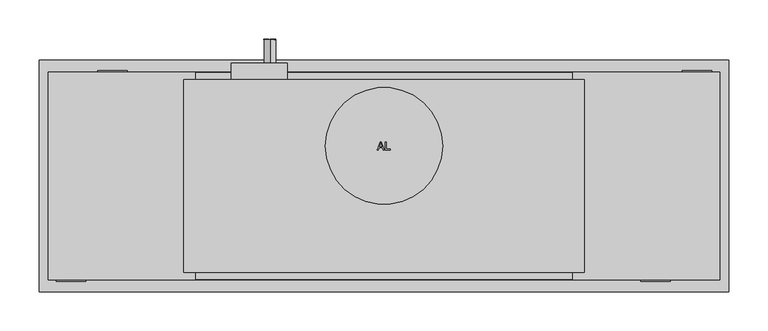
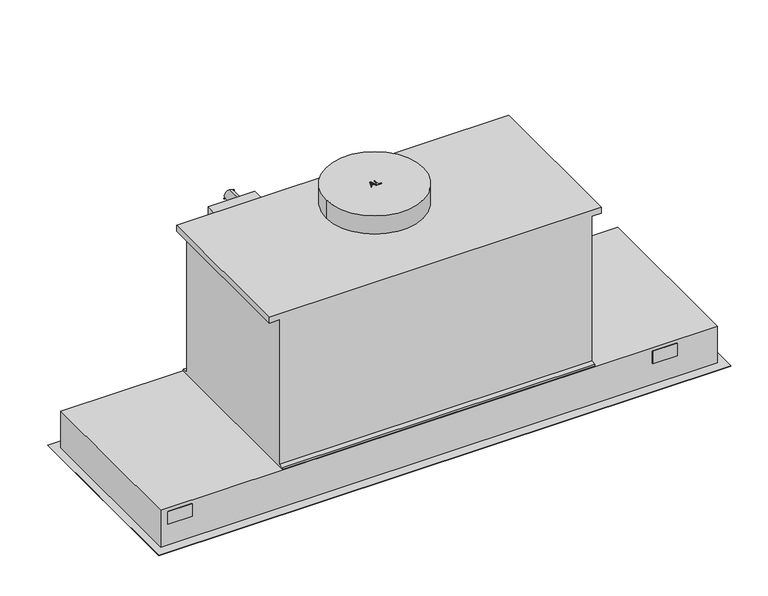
"""IFC4 building model written with IfcOpenShell, lengths in millimetres: proxy geometry, 10743660_USA_DA2390 : 28239055_USA_10743660_DA2390."""

from ifc_helpers import new_model, si_unit, point, frame, frame_2d, origin, place, context, project, spatial, polyline, circle_curve, trimmed, segment, composite_curve, outline, extrude, faceted_brep, source, transform, mapped, element, save
from ifc_brep_helpers import plane_surface, revolved_surface, advanced_brep


def specialty_equipment_3949a3b0(model_context):
    return source(origin(), model_context, "Body", "SolidModel", [
        extrude(outline(polyline([(9.0, -42.5), (332.5, -42.5), (332.5, -254.5), (9.0, -254.5), (9.0, -42.5)])), frame((0.0, 0.0, 2.0), z_axis=(0.0, 0.0, 1.0), x_axis=(1.0, 0.0, 0.0)), (0.0, 0.0, 1.0), 6.0),
        extrude(outline(polyline([(0.0, -33.5), (341.5, -33.5), (341.5, -263.5), (0.0, -263.5), (0.0, -33.5)]), holes=[polyline([(9.0, -42.5), (9.0, -254.5), (332.5, -254.5), (332.5, -42.5), (9.0, -42.5)])]), frame((0.0, 0.0, 0.5), z_axis=(0.0, 0.0, 1.0), x_axis=(1.0, 0.0, 0.0)), (0.0, 0.0, 1.0), 9.0),
        extrude(outline(polyline([(-9.0, -42.5), (-9.0, -254.5), (-332.5, -254.5), (-332.5, -42.5), (-9.0, -42.5)])), frame((0.0, 0.0, 2.0), z_axis=(0.0, 0.0, 1.0), x_axis=(1.0, 0.0, 0.0)), (0.0, 0.0, 1.0), 6.0),
        extrude(outline(polyline([(0.0, -33.5), (0.0, -263.5), (-341.5, -263.5), (-341.5, -33.5), (0.0, -33.5)]), holes=[polyline([(-9.0, -42.5), (-332.5, -42.5), (-332.5, -254.5), (-9.0, -254.5), (-9.0, -42.5)])]), frame((0.0, 0.0, 0.5), z_axis=(0.0, 0.0, 1.0), x_axis=(1.0, 0.0, 0.0)), (0.0, 0.0, 1.0), 9.0),
        extrude(outline(polyline([(154.25, -211.5), (187.25, -211.5), (187.25, -254.5), (154.25, -254.5), (154.25, -211.5)]), holes=[polyline([(160.75, -218.0), (160.75, -227.0), (180.5214328, -227.0), (180.5214328, -218.0), (160.75, -218.0)])]), frame((0.0, 0.0, 0.5), z_axis=(0.0, 0.0, 1.0), x_axis=(1.0, 0.0, 0.0)), (0.0, 0.0, 1.0), 1.5),
        extrude(outline(polyline([(-154.25, -211.5), (-154.25, -254.5), (-187.25, -254.5), (-187.25, -211.5), (-154.25, -211.5)]), holes=[polyline([(-160.75, -218.0), (-180.75, -218.0), (-180.75, -227.0), (-160.75, -227.0), (-160.75, -218.0)])]), frame((0.0, 0.0, 0.5), z_axis=(0.0, 0.0, 1.0), x_axis=(1.0, 0.0, 0.0)), (0.0, 0.0, 1.0), 1.5),
        extrude(outline(composite_curve([segment(trimmed(circle_curve(frame_2d((0.0, -110.0)), 75.0), [point((75.0, -110.0))], [point((-75.0, -110.0))], False, "CARTESIAN"), True, "CONTINUOUS"), segment(trimmed(circle_curve(frame_2d((0.0, -110.0)), 75.0), [point((-75.0, -110.0))], [point((75.0, -110.0))], False, "CARTESIAN"), True, "CONTINUOUS")], self_intersect=False)), frame((0.0, 0.0, 309.0), z_axis=(0.0, 0.0, 1.0), x_axis=(1.0, 0.0, 0.0)), (0.0, 0.0, 1.0), 30.0),
        faceted_brep([(430.0, -15.0, 60.0), (-430.0, -15.0, 60.0), (-430.0, -282.0, 60.0), (430.0, -282.0, 60.0), (430.0, -15.0, 0.0), (430.0, -282.0, 0.0), (-430.0, -282.0, 0.0), (-430.0, -15.0, 0.0), (340.0, -33.0, 0.0), (-340.0, -33.0, 0.0), (-340.0, -264.0, 0.0), (340.0, -264.0, 0.0), (340.0, -33.0, 10.0), (340.0, -264.0, 10.0), (-340.0, -264.0, 10.0), (-340.0, -33.0, 10.0)], [[[0, 1, 2, 3]], [[4, 5, 6, 7], [8, 9, 10, 11]], [[1, 0, 4, 7]], [[2, 1, 7, 6]], [[3, 2, 6, 5]], [[0, 3, 5, 4]], [[12, 13, 14, 15]], [[12, 15, 9, 8]], [[15, 14, 10, 9]], [[14, 13, 11, 10]], [[13, 12, 8, 11]]]),
        faceted_brep([(442.0, 0.0, 0.0), (-442.0, 0.0, 0.0), (-442.0, -297.0, 0.0), (442.0, -297.0, 0.0), (-340.0, -33.0, 0.0), (340.0, -33.0, 0.0), (340.0, -264.0, 0.0), (-340.0, -264.0, 0.0), (-437.669873, -292.669873, -3.0), (-437.669873, -4.330127, -3.0), (437.669873, -4.330127, -3.0), (437.669873, -292.669873, -3.0), (340.0, -33.0, -3.0), (-340.0, -33.0, -3.0), (-340.0, -264.0, -3.0), (340.0, -264.0, -3.0), (442.0, 0.0, -0.5), (-442.0, 0.0, -0.5), (-442.0, -297.0, -0.5), (442.0, -297.0, -0.5)], [[[0, 1, 2, 3], [4, 5, 6, 7]], [[8, 9, 10, 11], [12, 13, 14, 15]], [[1, 0, 16, 17]], [[2, 1, 17, 18]], [[3, 2, 18, 19]], [[0, 3, 19, 16]], [[18, 17, 9, 8]], [[16, 19, 11, 10]], [[8, 11, 19, 18]], [[10, 9, 17, 16]], [[12, 5, 4, 13]], [[13, 4, 7, 14]], [[14, 7, 6, 15]], [[5, 12, 15, 6]]]),
        extrude(outline(polyline([(-8.547125, -115.0), (-4.5372113, -104.954369), (-3.4679009, -104.954369), (0.5420128, -115.0), (-0.7848149, -115.0), (-1.9350593, -111.8607403), (-6.0725055, -111.8607403), (-7.2202973, -115.0), (-8.547125, -115.0)]), holes=[polyline([(-5.6114267, -110.6050364), (-2.3936855, -110.6050364), (-3.2986752, -108.135322), (-4.0025561, -106.2100729), (-4.6279555, -107.9194979), (-5.6114267, -110.6050364)])]), frame((0.0, 0.0, 339.0), z_axis=(0.0, 0.0, 1.0), x_axis=(1.0, 0.0, 0.0)), (0.0, 0.0, 1.0), 1.0),
        extrude(outline(polyline([(1.8835558, -115.0), (1.8835558, -104.954369), (3.1392597, -104.954369), (3.1392597, -113.7442961), (8.1620752, -113.7442961), (8.1620752, -115.0), (1.8835558, -115.0)])), frame((0.0, 0.0, 339.0), z_axis=(0.0, 0.0, 1.0), x_axis=(1.0, 0.0, 0.0)), (0.0, 0.0, 1.0), 1.0),
        extrude(outline(polyline([(285.0, -138.6227397), (295.045631, -138.6227397), (295.045631, -145.843037), (293.7899271, -145.843037), (293.7899271, -139.8784436), (290.8076304, -139.8784436), (290.8076304, -145.529111), (289.5519266, -145.529111), (289.5519266, -139.8784436), (286.2557039, -139.8784436), (286.2557039, -146.0), (285.0, -146.0), (285.0, -138.6227397)])), frame((0.0, 26.3, 0.0), z_axis=(0.0, 1.0, 0.0), x_axis=(0.0, 0.0, 1.0)), (0.0, 0.0, 1.0), 1.0),
        extrude(outline(polyline([(285.0, -147.8835558), (295.045631, -147.8835558), (295.045631, -149.1392597), (286.2557039, -149.1392597), (286.2557039, -154.1620752), (285.0, -154.1620752), (285.0, -147.8835558)])), frame((0.0, 26.3, 0.0), z_axis=(0.0, 1.0, 0.0), x_axis=(0.0, 0.0, 1.0)), (0.0, 0.0, 1.0), 1.0),
        extrude(outline(composite_curve([segment(trimmed(circle_curve(frame_2d((290.0, -146.0)), 7.5), [point((282.5, -146.0))], [point((297.5, -146.0))], False, "CARTESIAN"), True, "CONTINUOUS"), segment(trimmed(circle_curve(frame_2d((290.0, -146.0)), 7.5), [point((297.5, -146.0))], [point((282.5, -146.0))], False, "CARTESIAN"), True, "CONTINUOUS")], self_intersect=False)), frame((0.0, -3.7, 0.0), z_axis=(0.0, 1.0, 0.0), x_axis=(0.0, 0.0, 1.0)), (0.0, 0.0, 1.0), 30.0),
        extrude(outline(polyline([(-124.0, -3.7), (-124.0, -24.7), (-196.0, -24.7), (-196.0, -3.7), (-124.0, -3.7)])), frame((0.0, 0.0, 267.5), z_axis=(0.0, 0.0, 1.0), x_axis=(1.0, 0.0, 0.0)), (0.0, 0.0, 1.0), 38.0),
        extrude(outline(polyline([(382.0, -13.25), (420.0, -13.25), (420.0, -15.0), (382.0, -15.0), (382.0, -13.25)])), frame((0.0, 0.0, 35.0), z_axis=(0.0, 0.0, 1.0), x_axis=(1.0, 0.0, 0.0)), (0.0, 0.0, 1.0), 20.0),
        extrude(outline(polyline([(-367.0, -13.25), (-329.0, -13.25), (-329.0, -15.0), (-367.0, -15.0), (-367.0, -13.25)])), frame((0.0, 0.0, 35.0), z_axis=(0.0, 0.0, 1.0), x_axis=(1.0, 0.0, 0.0)), (0.0, 0.0, 1.0), 20.0),
        extrude(outline(polyline([(-420.0, -282.0), (-382.0, -282.0), (-382.0, -283.65), (-420.0, -283.65), (-420.0, -282.0)])), frame((0.0, 0.0, 35.0), z_axis=(0.0, 0.0, 1.0), x_axis=(1.0, 0.0, 0.0)), (0.0, 0.0, 1.0), 20.0),
        extrude(outline(polyline([(329.0, -282.0), (367.0, -282.0), (367.0, -283.65), (329.0, -283.65), (329.0, -282.0)])), frame((0.0, 0.0, 35.0), z_axis=(0.0, 0.0, 1.0), x_axis=(1.0, 0.0, 0.0)), (0.0, 0.0, 1.0), 20.0),
        faceted_brep([(-241.5, -24.7, 299.5), (-256.5, -24.7, 299.5), (-256.5, -24.7, 309.0), (256.5, -24.7, 309.0), (256.5, -24.7, 299.5), (241.5, -24.7, 299.5), (241.5, -24.7, 63.5), (-241.5, -24.7, 63.5), (-256.5, -272.3, 309.0), (-256.5, -272.3, 299.5), (-241.5, -272.3, 299.5), (-241.5, -272.3, 63.5), (241.5, -272.3, 63.5), (241.5, -272.3, 299.5), (256.5, -272.3, 299.5), (256.5, -272.3, 309.0), (241.5, -281.0, 63.5), (241.5, -281.0, 60.0), (241.5, -16.0, 60.0), (241.5, -16.0, 63.5), (-241.5, -281.0, 63.5), (-241.5, -16.0, 63.5), (-241.5, -16.0, 60.0), (-241.5, -281.0, 60.0)], [[[0, 1, 2, 3, 4, 5, 6, 7]], [[8, 9, 10, 11, 12, 13, 14, 15]], [[1, 0, 10, 9]], [[2, 1, 9, 8]], [[3, 2, 8, 15]], [[4, 3, 15, 14]], [[5, 4, 14, 13]], [[16, 17, 18, 19, 6, 5, 13, 12]], [[20, 11, 10, 0, 7, 21, 22, 23]], [[18, 17, 23, 22]], [[19, 18, 22, 21]], [[6, 19, 21, 7]], [[17, 16, 20, 23]], [[16, 12, 11, 20]]]),
        advanced_brep(
        [(399.5, -238.5, -3.0), (374.5, -238.5, -3.0), (424.5, -238.5, -3.0), (423.071852, -238.5, -4.0), (375.928148, -238.5, -4.0), (399.5, -238.5, -4.0)],
        [
            (0, 1),
            (1, 2, circle_curve(frame((399.5, -238.5, -3.0), z_axis=(0.0, 0.0, 1.0), x_axis=(-1.0, 0.0, 0.0)), 25.0)),
            (2, 0),
            (2, 1, circle_curve(frame((399.5, -238.5, -3.0), z_axis=(0.0, 0.0, 1.0), x_axis=(-1.0, 0.0, 0.0)), 25.0)),
            (3, 4, circle_curve(frame((399.5, -238.5, -4.0), z_axis=(0.0, 0.0, -1.0), x_axis=(-1.0, 0.0, 0.0)), 23.571852)),
            (4, 5),
            (5, 3),
            (4, 3, circle_curve(frame((399.5, -238.5, -4.0), z_axis=(0.0, 0.0, -1.0), x_axis=(-1.0, 0.0, 0.0)), 23.571852)),
            (1, 4),
            (3, 2),
        ],
        [
            plane_surface(frame((399.5, -238.5, -3.0), z_axis=(0.0, 0.0, 1.0), x_axis=(-1.0, 0.0, 0.0))),
            plane_surface(frame((399.5, -238.5, -4.0), z_axis=(0.0, 0.0, -1.0), x_axis=(-1.0, 0.0, 0.0))),
            revolved_surface(polyline([(375.928148, -238.5, -4.0), (374.5, -238.5, -3.0)]), (399.5, -238.5, 2135.4), (0.0, 0.0, 1.0)),
        ],
        [
            (0, [[1, 2, 3]]),
            (0, [[-3, 4, -1]]),
            (1, [[5, 6, 7]]),
            (1, [[8, -7, -6]]),
            (2, [[-2, 9, -5, 10]]),
            (2, [[-4, -10, -8, -9]]),
        ],
    ),
        advanced_brep(
        [(-399.5, -238.5, -3.0), (-424.5, -238.5, -3.0), (-374.5, -238.5, -3.0), (-375.928148, -238.5, -4.0), (-423.071852, -238.5, -4.0), (-399.5, -238.5, -4.0)],
        [
            (0, 1),
            (1, 2, circle_curve(frame((-399.5, -238.5, -3.0), z_axis=(0.0, 0.0, 1.0), x_axis=(-1.0, 0.0, 0.0)), 25.0)),
            (2, 0),
            (2, 1, circle_curve(frame((-399.5, -238.5, -3.0), z_axis=(0.0, 0.0, 1.0), x_axis=(-1.0, 0.0, 0.0)), 25.0)),
            (3, 4, circle_curve(frame((-399.5, -238.5, -4.0), z_axis=(0.0, 0.0, -1.0), x_axis=(-1.0, 0.0, 0.0)), 23.571852)),
            (4, 5),
            (5, 3),
            (4, 3, circle_curve(frame((-399.5, -238.5, -4.0), z_axis=(0.0, 0.0, -1.0), x_axis=(-1.0, 0.0, 0.0)), 23.571852)),
            (1, 4),
            (3, 2),
        ],
        [
            plane_surface(frame((-399.5, -238.5, -3.0), z_axis=(0.0, 0.0, 1.0), x_axis=(-1.0, 0.0, 0.0))),
            plane_surface(frame((-399.5, -238.5, -4.0), z_axis=(0.0, 0.0, -1.0), x_axis=(-1.0, 0.0, 0.0))),
            revolved_surface(polyline([(-423.071852, -238.5, -4.0), (-424.5, -238.5, -3.0)]), (-399.5, -238.5, 2135.4), (0.0, 0.0, 1.0)),
        ],
        [
            (0, [[1, 2, 3]]),
            (0, [[-3, 4, -1]]),
            (1, [[5, 6, 7]]),
            (1, [[8, -7, -6]]),
            (2, [[-2, 9, -5, 10]]),
            (2, [[-4, -10, -8, -9]]),
        ],
    ),
        advanced_brep(
        [(399.5, -58.5, -3.0), (374.5, -58.5, -3.0), (424.5, -58.5, -3.0), (423.071852, -58.5, -4.0), (375.928148, -58.5, -4.0), (399.5, -58.5, -4.0)],
        [
            (0, 1),
            (1, 2, circle_curve(frame((399.5, -58.5, -3.0), z_axis=(0.0, 0.0, 1.0), x_axis=(-1.0, 0.0, 0.0)), 25.0)),
            (2, 0),
            (2, 1, circle_curve(frame((399.5, -58.5, -3.0), z_axis=(0.0, 0.0, 1.0), x_axis=(-1.0, 0.0, 0.0)), 25.0)),
            (3, 4, circle_curve(frame((399.5, -58.5, -4.0), z_axis=(0.0, 0.0, -1.0), x_axis=(-1.0, 0.0, 0.0)), 23.571852)),
            (4, 5),
            (5, 3),
            (4, 3, circle_curve(frame((399.5, -58.5, -4.0), z_axis=(0.0, 0.0, -1.0), x_axis=(-1.0, 0.0, 0.0)), 23.571852)),
            (1, 4),
            (3, 2),
        ],
        [
            plane_surface(frame((399.5, -58.5, -3.0), z_axis=(0.0, 0.0, 1.0), x_axis=(-1.0, 0.0, 0.0))),
            plane_surface(frame((399.5, -58.5, -4.0), z_axis=(0.0, 0.0, -1.0), x_axis=(-1.0, 0.0, 0.0))),
            revolved_surface(polyline([(375.928148, -58.5, -4.0), (374.5, -58.5, -3.0)]), (399.5, -58.5, 2135.4), (0.0, 0.0, 1.0)),
        ],
        [
            (0, [[1, 2, 3]]),
            (0, [[-3, 4, -1]]),
            (1, [[5, 6, 7]]),
            (1, [[8, -7, -6]]),
            (2, [[-2, 9, -5, 10]]),
            (2, [[-4, -10, -8, -9]]),
        ],
    ),
        advanced_brep(
        [(-399.5, -58.5, -3.0), (-424.5, -58.5, -3.0), (-374.5, -58.5, -3.0), (-375.928148, -58.5, -4.0), (-423.071852, -58.5, -4.0), (-399.5, -58.5, -4.0)],
        [
            (0, 1),
            (1, 2, circle_curve(frame((-399.5, -58.5, -3.0), z_axis=(0.0, 0.0, 1.0), x_axis=(-1.0, 0.0, 0.0)), 25.0)),
            (2, 0),
            (2, 1, circle_curve(frame((-399.5, -58.5, -3.0), z_axis=(0.0, 0.0, 1.0), x_axis=(-1.0, 0.0, 0.0)), 25.0)),
            (3, 4, circle_curve(frame((-399.5, -58.5, -4.0), z_axis=(0.0, 0.0, -1.0), x_axis=(-1.0, 0.0, 0.0)), 23.571852)),
            (4, 5),
            (5, 3),
            (4, 3, circle_curve(frame((-399.5, -58.5, -4.0), z_axis=(0.0, 0.0, -1.0), x_axis=(-1.0, 0.0, 0.0)), 23.571852)),
            (1, 4),
            (3, 2),
        ],
        [
            plane_surface(frame((-399.5, -58.5, -3.0), z_axis=(0.0, 0.0, 1.0), x_axis=(-1.0, 0.0, 0.0))),
            plane_surface(frame((-399.5, -58.5, -4.0), z_axis=(0.0, 0.0, -1.0), x_axis=(-1.0, 0.0, 0.0))),
            revolved_surface(polyline([(-423.071852, -58.5, -4.0), (-424.5, -58.5, -3.0)]), (-399.5, -58.5, 2135.4), (0.0, 0.0, 1.0)),
        ],
        [
            (0, [[1, 2, 3]]),
            (0, [[-3, 4, -1]]),
            (1, [[5, 6, 7]]),
            (1, [[8, -7, -6]]),
            (2, [[-2, 9, -5, 10]]),
            (2, [[-4, -10, -8, -9]]),
        ],
    ),
        extrude(outline(composite_curve([segment(polyline([(-4.6, 364.5), (-3.0, 364.5), (-3.0, 356.5), (-4.6, 356.5)]), True, "CONTINUOUS"), segment(trimmed(circle_curve(frame_2d((20.0, 360.5)), 24.9230817), [point((-4.6, 356.5))], [point((-4.6, 364.5))], False, "CARTESIAN"), True, "CONTINUOUS")], self_intersect=False)), frame((0.0, -95.5, 0.0), z_axis=(0.0, 1.0, 0.0), x_axis=(0.0, 0.0, 1.0)), (0.0, 0.0, 1.0), 25.0),
        extrude(outline(composite_curve([segment(polyline([(-3.0, 364.5), (-3.0, 356.5), (-4.6, 356.5)]), True, "CONTINUOUS"), segment(trimmed(circle_curve(frame_2d((20.0, 360.5)), 24.9230817), [point((-4.6, 356.5))], [point((-4.6, 364.5))], False, "CARTESIAN"), True, "CONTINUOUS"), segment(polyline([(-4.6, 364.5), (-3.0, 364.5)]), True, "CONTINUOUS")], self_intersect=False)), frame((0.0, -226.5, 0.0), z_axis=(0.0, 1.0, 0.0), x_axis=(0.0, 0.0, 1.0)), (0.0, 0.0, 1.0), 25.0),
        extrude(outline(composite_curve([segment(polyline([(-4.6, 364.5), (-3.0, 364.5), (-3.0, 356.5), (-4.6, 356.5)]), True, "CONTINUOUS"), segment(trimmed(circle_curve(frame_2d((20.0, 360.5)), 24.9230817), [point((-4.6, 356.5))], [point((-4.6, 364.5))], False, "CARTESIAN"), True, "CONTINUOUS")], self_intersect=False)), frame((0.0, -121.5, 0.0), z_axis=(0.0, 1.0, 0.0), x_axis=(0.0, 0.0, 1.0)), (0.0, 0.0, 1.0), 25.0),
        extrude(outline(composite_curve([segment(polyline([(-4.6, 364.5), (-3.0, 364.5), (-3.0, 356.5), (-4.6, 356.5)]), True, "CONTINUOUS"), segment(trimmed(circle_curve(frame_2d((20.0, 360.5)), 24.9230817), [point((-4.6, 356.5))], [point((-4.6, 364.5))], False, "CARTESIAN"), True, "CONTINUOUS")], self_intersect=False)), frame((0.0, -174.5, 0.0), z_axis=(0.0, 1.0, 0.0), x_axis=(0.0, 0.0, 1.0)), (0.0, 0.0, 1.0), 52.0),
        extrude(outline(composite_curve([segment(polyline([(-4.6, 364.5), (-3.0, 364.5), (-3.0, 356.5), (-4.6, 356.5)]), True, "CONTINUOUS"), segment(trimmed(circle_curve(frame_2d((20.0, 360.5)), 24.9230817), [point((-4.6, 356.5))], [point((-4.6, 364.5))], False, "CARTESIAN"), True, "CONTINUOUS")], self_intersect=False)), frame((0.0, -200.5, 0.0), z_axis=(0.0, 1.0, 0.0), x_axis=(0.0, 0.0, 1.0)), (0.0, 0.0, 1.0), 25.0),
    ])


if __name__ == "__main__":
    model = new_model("IFC4")
    model_context = context("Model", 3, world=origin())
    ifc_project = project(units=[si_unit("LENGTHUNIT", "METRE", prefix="MILLI")], contexts=[model_context])
    site = spatial("IfcSite", under=ifc_project)
    building = spatial("IfcBuilding", under=site)
    placement = place(None, origin())
    specialty_equipment_shape = specialty_equipment_3949a3b0(model_context)
    element("IfcBuildingElementProxy", 1, Name="10743660_USA_DA2390 : 28239055_USA_10743660_DA2390", ObjectType="10743660_USA_DA2390 : 28239055_USA_10743660_DA2390", at=placement, inside=building, context=model_context, shape_type="MappedRepresentation", body=[
        mapped(specialty_equipment_shape, transform((0.0, 0.0, 0.0), x_axis=(1.0, 0.0, 0.0), y_axis=(0.0, 1.0, 0.0), z_axis=(0.0, 0.0, 1.0))),
    ])
    save(model, "model.ifc")
